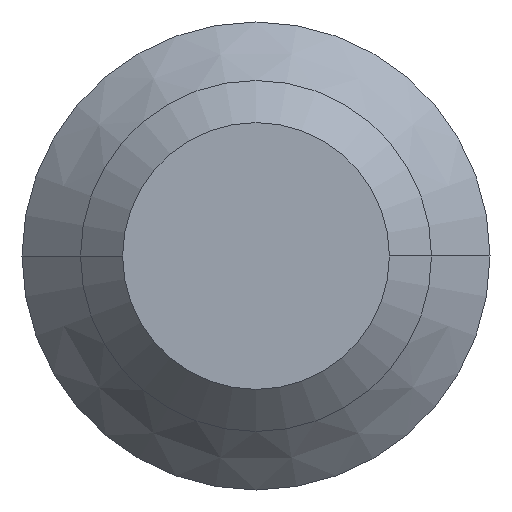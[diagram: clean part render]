
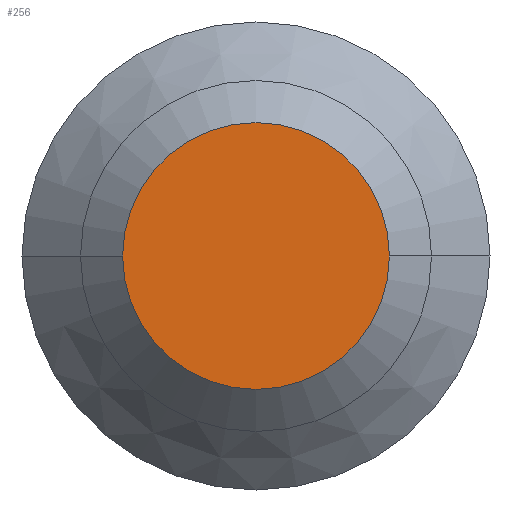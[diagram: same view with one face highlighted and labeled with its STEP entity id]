
A CAD part, left-side view. The second image highlights one B-rep face of the part: STEP entity #256.
In plain terms, the highlighted planar face has unit normal (-1, 0, 0).
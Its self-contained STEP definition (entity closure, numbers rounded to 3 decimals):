
#38 = AXIS2_PLACEMENT_3D ( 'NONE', #421, #222, #327 ) ;
#107 = PLANE ( 'NONE',  #38 ) ;
#110 = CIRCLE ( 'NONE', #337, 3.619 ) ;
#114 = CARTESIAN_POINT ( 'NONE',  ( -44.285, -3.62, 0. ) ) ;
#121 = DIRECTION ( 'NONE',  ( 1., 0., 0. ) ) ;
#122 = VERTEX_POINT ( 'NONE', #114 ) ;
#123 = EDGE_CURVE ( 'NONE', #159, #122, #110, .T. ) ;
#147 = DIRECTION ( 'NONE',  ( 0., 1., 0. ) ) ;
#159 = VERTEX_POINT ( 'NONE', #302 ) ;
#199 = EDGE_CURVE ( 'NONE', #122, #159, #368, .T. ) ;
#202 = DIRECTION ( 'NONE',  ( 0., 1., 0. ) ) ;
#222 = DIRECTION ( 'NONE',  ( 1., 0., 0. ) ) ;
#226 = CARTESIAN_POINT ( 'NONE',  ( -44.285, 0., 0. ) ) ;
#243 = FACE_OUTER_BOUND ( 'NONE', #343, .T. ) ;
#256 = ADVANCED_FACE ( 'NONE', ( #243 ), #107, .F. ) ;
#301 = AXIS2_PLACEMENT_3D ( 'NONE', #377, #398, #202 ) ;
#302 = CARTESIAN_POINT ( 'NONE',  ( -44.285, 3.619, 0. ) ) ;
#327 = DIRECTION ( 'NONE',  ( 0., 1., 0. ) ) ;
#337 = AXIS2_PLACEMENT_3D ( 'NONE', #226, #121, #147 ) ;
#343 = EDGE_LOOP ( 'NONE', ( #396, #412 ) ) ;
#368 = CIRCLE ( 'NONE', #301, 3.619 ) ;
#377 = CARTESIAN_POINT ( 'NONE',  ( -44.285, 0., 0. ) ) ;
#396 = ORIENTED_EDGE ( 'NONE', *, *, #123, .F. ) ;
#398 = DIRECTION ( 'NONE',  ( 1., 0., 0. ) ) ;
#412 = ORIENTED_EDGE ( 'NONE', *, *, #199, .F. ) ;
#421 = CARTESIAN_POINT ( 'NONE',  ( -44.285, 0., 0. ) ) ;
